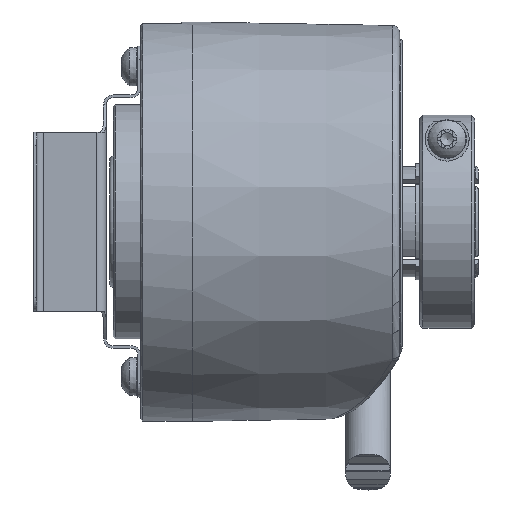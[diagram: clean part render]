
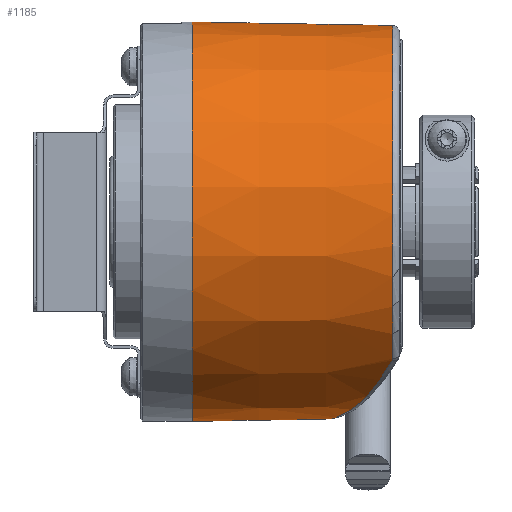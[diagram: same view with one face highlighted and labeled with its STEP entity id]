
A CAD part, front view. The second image highlights one B-rep face of the part: STEP entity #1185.
In plain terms, the highlighted conical face has half-angle 1 degrees and reference radius 28.475 mm.
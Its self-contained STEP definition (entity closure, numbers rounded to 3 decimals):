
#1185 = ADVANCED_FACE( '', ( #2707, #2708 ), #2709, .T. );
#2707 = FACE_OUTER_BOUND( '', #5477, .T. );
#2708 = FACE_BOUND( '', #5478, .T. );
#2709 = CONICAL_SURFACE( '', #5479, 28.475, 0.017 );
#5477 = EDGE_LOOP( '', ( #9944 ) );
#5478 = EDGE_LOOP( '', ( #9945, #9946, #9947, #9948, #9949, #9950, #9951 ) );
#5479 = AXIS2_PLACEMENT_3D( '', #9952, #9953, #9954 );
#9944 = ORIENTED_EDGE( '', *, *, #13190, .F. );
#9945 = ORIENTED_EDGE( '', *, *, #12658, .T. );
#9946 = ORIENTED_EDGE( '', *, *, #12579, .T. );
#9947 = ORIENTED_EDGE( '', *, *, #12465, .T. );
#9948 = ORIENTED_EDGE( '', *, *, #13191, .T. );
#9949 = ORIENTED_EDGE( '', *, *, #13192, .T. );
#9950 = ORIENTED_EDGE( '', *, *, #13193, .T. );
#9951 = ORIENTED_EDGE( '', *, *, #12063, .T. );
#9952 = CARTESIAN_POINT( '', ( 42.1, 0., 0. ) );
#9953 = DIRECTION( '', ( -1., 0., 0. ) );
#9954 = DIRECTION( '', ( 0., -0.002, 1. ) );
#12063 = EDGE_CURVE( '', #13884, #13882, #13885, .T. );
#12465 = EDGE_CURVE( '', #14562, #14564, #14566, .T. );
#12579 = EDGE_CURVE( '', #14744, #14562, #14748, .T. );
#12658 = EDGE_CURVE( '', #13882, #14744, #14872, .T. );
#13190 = EDGE_CURVE( '', #15624, #15624, #15625, .T. );
#13191 = EDGE_CURVE( '', #14564, #15626, #15627, .T. );
#13192 = EDGE_CURVE( '', #15626, #15628, #15629, .T. );
#13193 = EDGE_CURVE( '', #15628, #13884, #15630, .T. );
#13882 = VERTEX_POINT( '', #16579 );
#13884 = VERTEX_POINT( '', #16586 );
#13885 = B_SPLINE_CURVE_WITH_KNOTS( '', 3, ( #16587, #16588, #16589, #16590 ), .UNSPECIFIED., .F., .F., ( 4, 4 ), ( 0., 0. ), .UNSPECIFIED. );
#14562 = VERTEX_POINT( '', #17853 );
#14564 = VERTEX_POINT( '', #17864 );
#14566 = B_SPLINE_CURVE_WITH_KNOTS( '', 3, ( #17871, #17872, #17873, #17874, #17875, #17876, #17877, #17878, #17879, #17880, #17881, #17882 ), .UNSPECIFIED., .F., .F., ( 4, 2, 2, 2, 2, 4 ), ( 0., 0.001, 0.001, 0.001, 0.002, 0.002 ), .UNSPECIFIED. );
#14744 = VERTEX_POINT( '', #18234 );
#14748 = B_SPLINE_CURVE_WITH_KNOTS( '', 3, ( #18250, #18251, #18252, #18253, #18254, #18255, #18256 ), .UNSPECIFIED., .F., .F., ( 4, 3, 4 ), ( 0., 0.002, 0.008 ), .UNSPECIFIED. );
#14872 = CIRCLE( '', #18524, 28.492 );
#15624 = VERTEX_POINT( '', #19747 );
#15625 = CIRCLE( '', #19748, 29. );
#15626 = VERTEX_POINT( '', #19749 );
#15627 = CIRCLE( '', #19750, 28.658 );
#15628 = VERTEX_POINT( '', #19751 );
#15629 = B_SPLINE_CURVE_WITH_KNOTS( '', 3, ( #19752, #19753, #19754, #19755, #19756, #19757, #19758, #19759, #19760, #19761, #19762, #19763, #19764, #19765, #19766, #19767, #19768 ), .UNSPECIFIED., .F., .F., ( 4, 1, 1, 1, 1, 1, 1, 1, 1, 1, 1, 1, 1, 1, 4 ), ( 0., 0.056, 0.112, 0.168, 0.223, 0.278, 0.334, 0.389, 0.444, 0.499, 0.599, 0.7, 0.8, 0.9, 1. ), .UNSPECIFIED. );
#15630 = B_SPLINE_CURVE_WITH_KNOTS( '', 3, ( #19769, #19770, #19771, #19772, #19773, #19774, #19775, #19776, #19777, #19778, #19779, #19780, #19781, #19782, #19783, #19784, #19785, #19786, #19787, #19788 ), .UNSPECIFIED., .F., .F., ( 4, 1, 1, 1, 1, 1, 1, 1, 1, 1, 1, 1, 1, 1, 1, 1, 1, 4 ), ( 0., 0.027, 0.057, 0.09, 0.125, 0.188, 0.25, 0.385, 0.5, 0.569, 0.625, 0.684, 0.75, 0.796, 0.875, 0.923, 0.965, 1. ), .UNSPECIFIED. );
#16579 = CARTESIAN_POINT( '', ( 41.117, -20.401, -19.889 ) );
#16586 = CARTESIAN_POINT( '', ( 41.041, -20.137, -20.158 ) );
#16587 = CARTESIAN_POINT( '', ( 41.041, -20.137, -20.158 ) );
#16588 = CARTESIAN_POINT( '', ( 41.092, -20.221, -20.073 ) );
#16589 = CARTESIAN_POINT( '', ( 41.117, -20.31, -19.982 ) );
#16590 = CARTESIAN_POINT( '', ( 41.117, -20.401, -19.889 ) );
#17853 = CARTESIAN_POINT( '', ( 32.906, 23.215, -16.764 ) );
#17864 = CARTESIAN_POINT( '', ( 31.617, 22.419, -17.851 ) );
#17871 = CARTESIAN_POINT( '', ( 32.906, 23.215, -16.764 ) );
#17872 = CARTESIAN_POINT( '', ( 32.732, 23.217, -16.767 ) );
#17873 = CARTESIAN_POINT( '', ( 32.56, 23.197, -16.8 ) );
#17874 = CARTESIAN_POINT( '', ( 32.247, 23.119, -16.916 ) );
#17875 = CARTESIAN_POINT( '', ( 32.104, 23.06, -17. ) );
#17876 = CARTESIAN_POINT( '', ( 31.927, 22.95, -17.153 ) );
#17877 = CARTESIAN_POINT( '', ( 31.874, 22.91, -17.209 ) );
#17878 = CARTESIAN_POINT( '', ( 31.782, 22.823, -17.326 ) );
#17879 = CARTESIAN_POINT( '', ( 31.744, 22.777, -17.388 ) );
#17880 = CARTESIAN_POINT( '', ( 31.65, 22.632, -17.58 ) );
#17881 = CARTESIAN_POINT( '', ( 31.617, 22.527, -17.715 ) );
#17882 = CARTESIAN_POINT( '', ( 31.617, 22.419, -17.851 ) );
#18234 = CARTESIAN_POINT( '', ( 41.117, 23.146, -16.615 ) );
#18250 = CARTESIAN_POINT( '', ( 41.117, 23.146, -16.615 ) );
#18251 = CARTESIAN_POINT( '', ( 40.451, 23.151, -16.627 ) );
#18252 = CARTESIAN_POINT( '', ( 39.784, 23.157, -16.639 ) );
#18253 = CARTESIAN_POINT( '', ( 39.118, 23.163, -16.651 ) );
#18254 = CARTESIAN_POINT( '', ( 37.047, 23.18, -16.689 ) );
#18255 = CARTESIAN_POINT( '', ( 34.977, 23.198, -16.726 ) );
#18256 = CARTESIAN_POINT( '', ( 32.906, 23.215, -16.764 ) );
#18524 = AXIS2_PLACEMENT_3D( '', #21838, #21839, #21840 );
#19747 = CARTESIAN_POINT( '', ( 12., -25.115, 14.5 ) );
#19748 = AXIS2_PLACEMENT_3D( '', #22583, #22584, #22585 );
#19749 = CARTESIAN_POINT( '', ( 31.617, 3.392, -28.456 ) );
#19750 = AXIS2_PLACEMENT_3D( '', #22586, #22587, #22588 );
#19751 = CARTESIAN_POINT( '', ( 32.989, -3.431, -28.427 ) );
#19752 = CARTESIAN_POINT( '', ( 31.617, 3.392, -28.456 ) );
#19753 = CARTESIAN_POINT( '', ( 31.618, 3.261, -28.471 ) );
#19754 = CARTESIAN_POINT( '', ( 31.62, 3.001, -28.501 ) );
#19755 = CARTESIAN_POINT( '', ( 31.633, 2.611, -28.539 ) );
#19756 = CARTESIAN_POINT( '', ( 31.654, 2.222, -28.572 ) );
#19757 = CARTESIAN_POINT( '', ( 31.683, 1.834, -28.599 ) );
#19758 = CARTESIAN_POINT( '', ( 31.721, 1.447, -28.62 ) );
#19759 = CARTESIAN_POINT( '', ( 31.767, 1.062, -28.636 ) );
#19760 = CARTESIAN_POINT( '', ( 31.822, 0.679, -28.647 ) );
#19761 = CARTESIAN_POINT( '', ( 31.885, 0.297, -28.652 ) );
#19762 = CARTESIAN_POINT( '', ( 31.976, -0.188, -28.652 ) );
#19763 = CARTESIAN_POINT( '', ( 32.104, -0.772, -28.641 ) );
#19764 = CARTESIAN_POINT( '', ( 32.283, -1.452, -28.612 ) );
#19765 = CARTESIAN_POINT( '', ( 32.49, -2.123, -28.566 ) );
#19766 = CARTESIAN_POINT( '', ( 32.723, -2.784, -28.506 ) );
#19767 = CARTESIAN_POINT( '', ( 32.9, -3.215, -28.454 ) );
#19768 = CARTESIAN_POINT( '', ( 32.989, -3.431, -28.427 ) );
#19769 = CARTESIAN_POINT( '', ( 32.989, -3.431, -28.427 ) );
#19770 = CARTESIAN_POINT( '', ( 33.062, -3.6, -28.405 ) );
#19771 = CARTESIAN_POINT( '', ( 33.214, -3.957, -28.357 ) );
#19772 = CARTESIAN_POINT( '', ( 33.454, -4.517, -28.269 ) );
#19773 = CARTESIAN_POINT( '', ( 33.718, -5.128, -28.16 ) );
#19774 = CARTESIAN_POINT( '', ( 34.07, -5.94, -27.997 ) );
#19775 = CARTESIAN_POINT( '', ( 34.502, -6.928, -27.764 ) );
#19776 = CARTESIAN_POINT( '', ( 35.202, -8.509, -27.322 ) );
#19777 = CARTESIAN_POINT( '', ( 36.042, -10.376, -26.666 ) );
#19778 = CARTESIAN_POINT( '', ( 36.892, -12.225, -25.838 ) );
#19779 = CARTESIAN_POINT( '', ( 37.528, -13.577, -25.129 ) );
#19780 = CARTESIAN_POINT( '', ( 38.017, -14.584, -24.547 ) );
#19781 = CARTESIAN_POINT( '', ( 38.501, -15.551, -23.938 ) );
#19782 = CARTESIAN_POINT( '', ( 38.96, -16.441, -23.324 ) );
#19783 = CARTESIAN_POINT( '', ( 39.477, -17.411, -22.6 ) );
#19784 = CARTESIAN_POINT( '', ( 39.946, -18.262, -21.908 ) );
#19785 = CARTESIAN_POINT( '', ( 40.403, -19.063, -21.198 ) );
#19786 = CARTESIAN_POINT( '', ( 40.741, -19.639, -20.657 ) );
#19787 = CARTESIAN_POINT( '', ( 40.947, -19.981, -20.314 ) );
#19788 = CARTESIAN_POINT( '', ( 41.041, -20.137, -20.158 ) );
#21838 = CARTESIAN_POINT( '', ( 41.117, 0., 0. ) );
#21839 = DIRECTION( '', ( -1., 0., 0. ) );
#21840 = DIRECTION( '', ( 0., 0.002, -1. ) );
#22583 = CARTESIAN_POINT( '', ( 12., 0., 0. ) );
#22584 = DIRECTION( '', ( -1., 0., 0. ) );
#22585 = DIRECTION( '', ( 0., -0.866, 0.5 ) );
#22586 = CARTESIAN_POINT( '', ( 31.617, 0., 0. ) );
#22587 = DIRECTION( '', ( -1., 0., 0. ) );
#22588 = DIRECTION( '', ( 0., 0.002, -1. ) );
